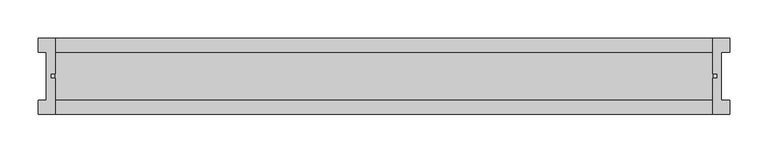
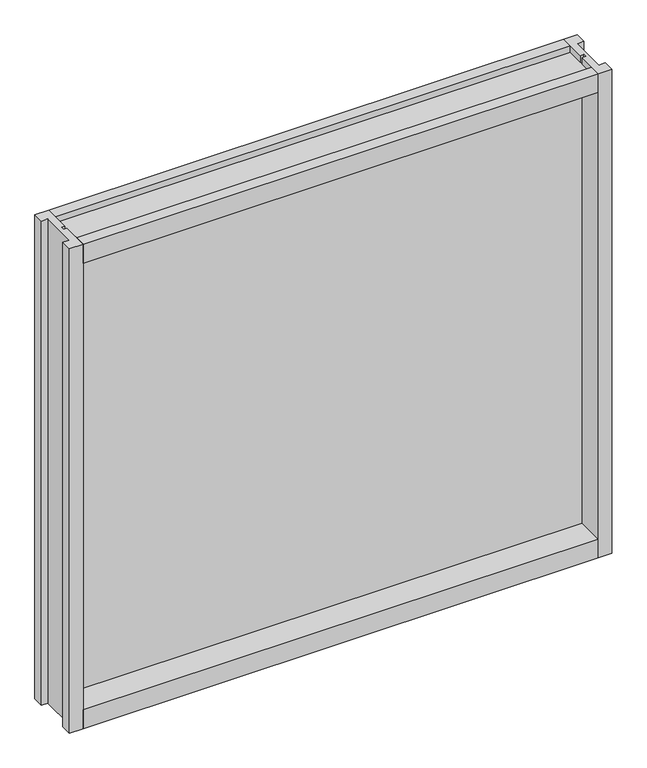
"""IFC4 building model written with IfcOpenShell, lengths in millimetres: proxy geometry, Panel-Clerestory-Teknion-Optos-Altos_Monolithic_Fascias : FYCG."""

from ifc_helpers import new_model, si_unit, frame, origin, place, context, project, spatial, polyline, outline, extrude, source, transform, mapped, element, save


def specialty_equipment_5beb618c(model_context):
    return source(origin(), model_context, "Body", "SweptSolid", [
        extrude(outline(polyline([(-454.0305562, -50.0558594), (-454.0305562, -31.2040001), (-443.2157125, -31.2040001), (-443.2157125, 31.2040001), (-454.0305562, 31.2040001), (-454.0305562, 50.0558594), (-431.2102437, 50.0558594), (-431.2102437, 2.9765625), (-437.3062455, 2.9765625), (-437.3062455, -2.9765625), (-431.2102437, -2.9765625), (-431.2102437, -50.0558594), (-454.0305562, -50.0558594)])), frame((0.0, 0.0, 3.175), z_axis=(0.0, 0.0, 1.0), x_axis=(1.0, 0.0, 0.0)), (0.0, 0.0, 1.0), 856.8718389),
        extrude(outline(polyline([(454.0305563, -50.0558594), (431.2102438, -50.0558594), (431.2102438, -2.9765625), (437.3062455, -2.9765625), (437.3062455, 2.9765625), (431.2102438, 2.9765625), (431.2102438, 50.0558594), (454.0305563, 50.0558594), (454.0305563, 31.2040001), (442.6005563, 31.2040001), (442.6005563, -31.2040001), (454.0305563, -31.2040001), (454.0305563, -50.0558594)])), frame((0.0, 0.0, 3.175), z_axis=(0.0, 0.0, 1.0), x_axis=(1.0, 0.0, 0.0)), (0.0, 0.0, 1.0), 856.8718389),
        extrude(outline(polyline([(-50.0558594, 827.026838), (-50.0558594, 860.0468389), (-31.2040001, 860.0468389), (-31.2040001, 848.616839), (31.2040001, 848.616839), (31.2040001, 860.0468389), (50.0558594, 860.0468389), (50.0558594, 827.026838), (2.9765625, 827.026838), (2.9765625, 833.1228398), (-2.9765625, 833.1228398), (-2.9765625, 827.026838), (-50.0558594, 827.026838)])), frame((-431.2102437, 0.0, 0.0), z_axis=(1.0, 0.0, 0.0), x_axis=(0.0, 1.0, 0.0)), (0.0, 0.0, 1.0), 862.4204875),
        extrude(outline(polyline([(-50.0558594, 36.1950009), (-2.9765625, 36.1950009), (-2.9765625, 30.0989992), (2.9765625, 30.0989992), (2.9765625, 36.1950009), (50.0558594, 36.1950009), (50.0558594, 3.175), (31.2040001, 3.175), (31.2040001, 14.605), (-31.2040001, 14.605), (-31.2040001, 3.175), (-50.0558594, 3.175), (-50.0558594, 36.1950009)])), frame((-431.2102437, 0.0, 0.0), z_axis=(1.0, 0.0, 0.0), x_axis=(0.0, 1.0, 0.0)), (0.0, 0.0, 1.0), 862.4204875),
        extrude(outline(polyline([(439.5680805, -2.9765625), (-439.5680805, -2.9765625), (-439.5680805, 2.9765625), (439.5680805, 2.9765625), (439.5680805, -2.9765625)])), frame((0.0, 0.0, 30.0989992), z_axis=(0.0, 0.0, 1.0), x_axis=(1.0, 0.0, 0.0)), (0.0, 0.0, 1.0), 803.0238406),
    ])


if __name__ == "__main__":
    model = new_model("IFC4")
    model_context = context("Model", 3, world=origin())
    ifc_project = project(units=[si_unit("LENGTHUNIT", "METRE", prefix="MILLI")], contexts=[model_context])
    site = spatial("IfcSite", under=ifc_project)
    building = spatial("IfcBuilding", under=site)
    placement = place(None, origin())
    specialty_equipment_shape = specialty_equipment_5beb618c(model_context)
    element("IfcBuildingElementProxy", 1, Name="Panel-Clerestory-Teknion-Optos-Altos_Monolithic_Fascias : FYCG", ObjectType="Panel-Clerestory-Teknion-Optos-Altos_Monolithic_Fascias : FYCG", at=placement, inside=building, context=model_context, shape_type="MappedRepresentation", body=[
        mapped(specialty_equipment_shape, transform((0.0, 0.0, 0.0), x_axis=(1.0, 0.0, 0.0), y_axis=(0.0, 1.0, 0.0), z_axis=(0.0, 0.0, 1.0))),
    ])
    save(model, "model.ifc")
